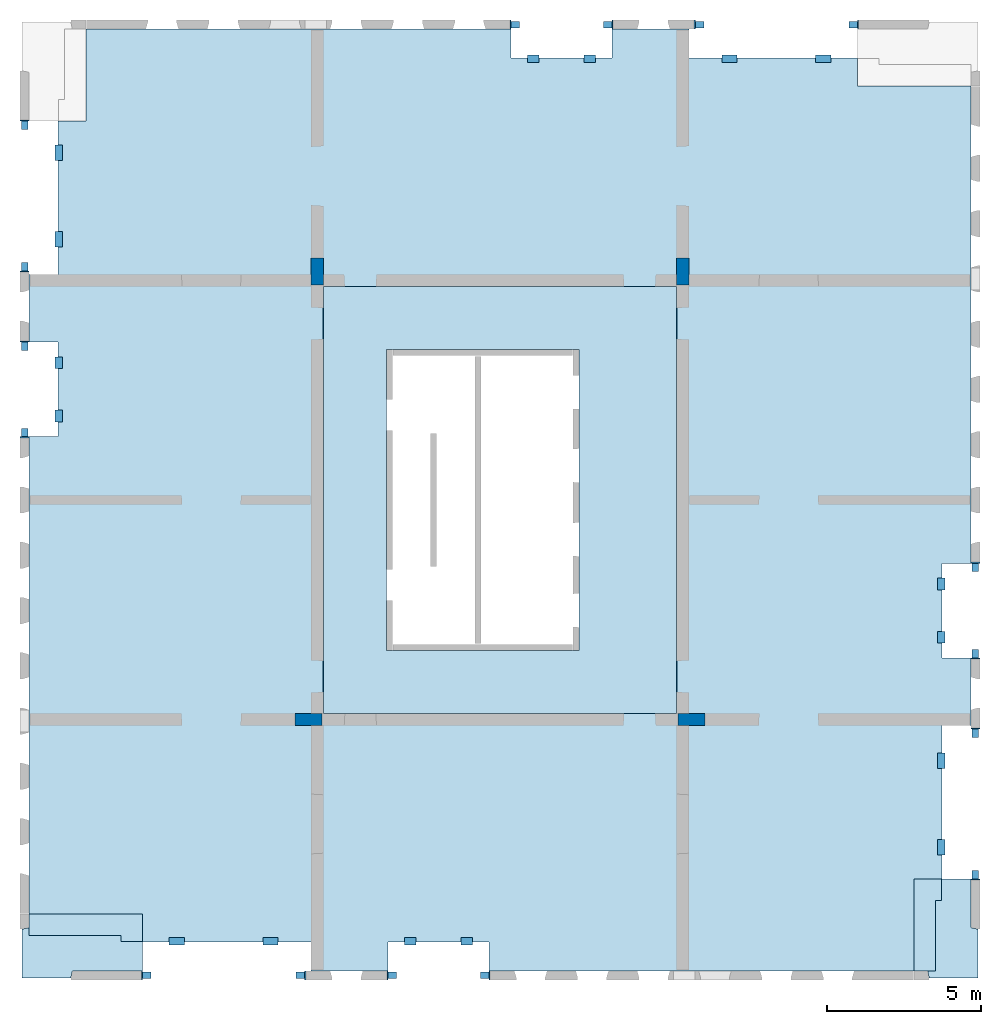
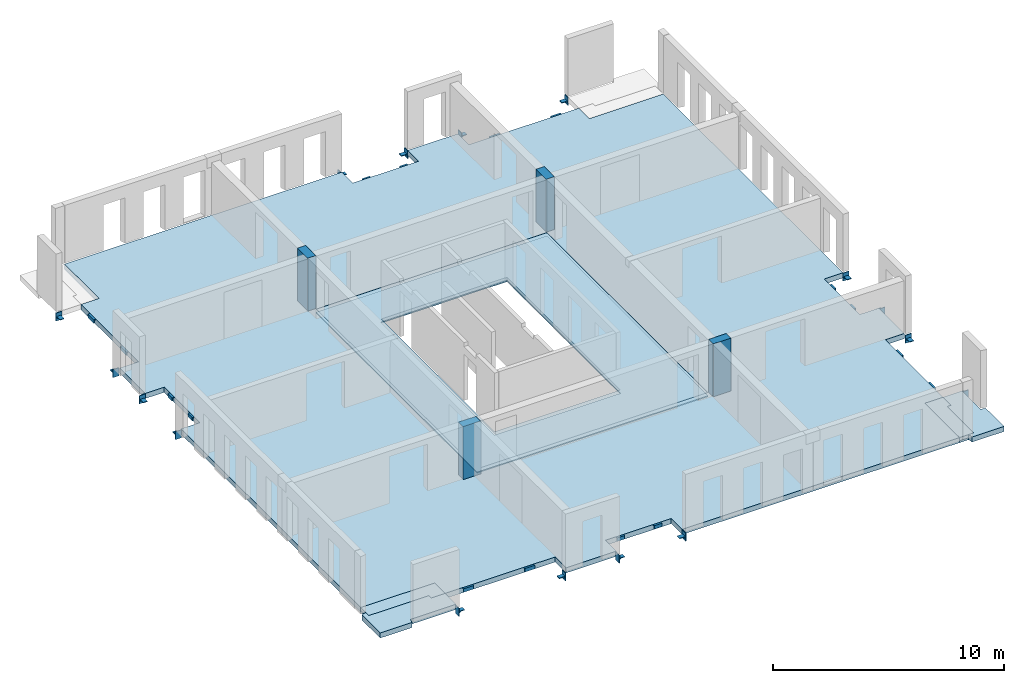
# One storey, part 1 of 4: 32 beams, 7 slabs, 4 columns, 3 openings.
"""IFC2X3 building model written with IfcOpenShell, lengths in millimetres."""

import ifcopenshell
import ifcopenshell.guid

model = None  # the IFC model being written
_history = None  # IfcOwnerHistory: only IFC2X3 demands one
_inside = {}  # id of a spatial element -> (the spatial element, [elements in it])
_under = {}  # id of a project, library or spatial element -> (it, [spatial elements below it])
_declared = {}  # id of a project -> (the project, [libraries it declares])
_typed = {}  # id of a type object -> (the type object, [elements of that type])
_made_of = {}  # id of a material, layer set ... -> (it, [elements and type objects made of it])


def new_model(schema):
    """Start an empty IFC model of exactly this schema.

    Asked for "IFC4X3", IfcOpenShell would pick the latest addendum, in which some entities
    have other attributes; the version numbers below select the first issue.
    IFC2X3 requires an IfcOwnerHistory on every rooted entity: one is made here for all.
    """
    global model, _history
    if schema == "IFC4X3":
        model = ifcopenshell.file(schema_version=(4, 3, 0, 0))
    else:
        model = ifcopenshell.file(schema=schema)
    _inside.clear()
    _under.clear()
    _declared.clear()
    _typed.clear()
    _made_of.clear()
    _history = None
    if model.schema == "IFC2X3":
        org = make("IfcOrganization", Name="unknown")
        user = make(
            "IfcPersonAndOrganization",
            ThePerson=make("IfcPerson", FamilyName="unknown"),
            TheOrganization=org,
        )
        app = make(
            "IfcApplication",
            ApplicationDeveloper=org,
            Version="unknown",
            ApplicationFullName="unknown",
            ApplicationIdentifier="unknown",
        )
        _history = make(
            "IfcOwnerHistory",
            OwningUser=user,
            OwningApplication=app,
            ChangeAction="ADDED",
            CreationDate=0,
        )
    return model


def make(cls, **values):
    """One entity of the class cls with the attributes given. An attribute that is None is left unset."""
    return model.create_entity(
        cls, **{name: value for name, value in values.items() if value is not None}
    )


def entity(cls, *values):
    """Any entity or typed value of the class cls, its attributes in the order of the schema. None: left unset."""
    e = model.create_entity(cls)
    for i, value in enumerate(values):
        if value is not None:
            e[i] = value
    return e


def rooted(cls, **values):
    """An entity with a GlobalId (a new one), such as an element, a storey or a relation."""
    return make(cls, GlobalId=ifcopenshell.guid.new(), OwnerHistory=_history, **values)


def si_unit(unit_type, name, prefix=None):
    """IfcSIUnit, for example si_unit("LENGTHUNIT", "METRE", prefix="MILLI")."""
    return make("IfcSIUnit", UnitType=unit_type, Prefix=prefix, Name=name)


def converted_unit(unit_type, name, factor, base, dimensions=None, offset=None):
    """IfcConversionBasedUnit, such as the inch: factor (a typed value) times the base unit."""
    return make(
        "IfcConversionBasedUnit"
        if offset is None
        else "IfcConversionBasedUnitWithOffset",
        ConversionOffset=offset,
        Dimensions=None
        if dimensions is None
        else entity("IfcDimensionalExponents", *dimensions),
        UnitType=unit_type,
        Name=name,
        ConversionFactor=make(
            "IfcMeasureWithUnit", ValueComponent=factor, UnitComponent=base
        ),
    )


def derived_unit(unit_type, elements):
    """IfcDerivedUnit: a product of units, each with its exponent."""
    return make(
        "IfcDerivedUnit",
        Elements=[
            make("IfcDerivedUnitElement", Unit=unit, Exponent=power)
            for unit, power in elements
        ],
        UnitType=unit_type,
    )


def assignment(units):
    """IfcUnitAssignment: the units of a project."""
    return None if units is None else make("IfcUnitAssignment", Units=units)


def point(xyz):
    """IfcCartesianPoint."""
    return None if xyz is None else make("IfcCartesianPoint", Coordinates=xyz)


def direction(xyz):
    """IfcDirection."""
    return None if xyz is None else make("IfcDirection", DirectionRatios=xyz)


def frame(location, z_axis=None, x_axis=None):
    """IfcAxis2Placement3D, a coordinate frame: its origin and axes. An axis left out is left unset."""
    return make(
        "IfcAxis2Placement3D",
        Location=point(location),
        Axis=direction(z_axis),
        RefDirection=direction(x_axis),
    )


def frame_2d(location, x_axis=None):
    """IfcAxis2Placement2D, a coordinate frame in the plane: its origin and x axis."""
    return make(
        "IfcAxis2Placement2D", Location=point(location), RefDirection=direction(x_axis)
    )


def origin():
    """The frame at (0, 0, 0) with its axes left unset."""
    return frame((0.0, 0.0, 0.0))


def origin_2d_with_axis():
    """The frame at (0, 0) in the plane with the x axis (1, 0) written out."""
    return frame_2d((0.0, 0.0), x_axis=(1.0, 0.0))


def place(relative_to, where):
    """IfcLocalPlacement: puts the frame where relative to a parent placement (None: the world)."""
    return make(
        "IfcLocalPlacement", PlacementRelTo=relative_to, RelativePlacement=where
    )


def context(
    kind, dimensions, precision=None, world=None, true_north=None, identifier=None
):
    """IfcGeometricRepresentationContext, for example the 3D "Model" context."""
    return make(
        "IfcGeometricRepresentationContext",
        ContextIdentifier=identifier,
        ContextType=kind,
        CoordinateSpaceDimension=dimensions,
        Precision=precision,
        WorldCoordinateSystem=world,
        TrueNorth=true_north,
    )


def subcontext(parent, identifier, kind, view, scale=None):
    """IfcGeometricRepresentationSubContext, for example "Body" below "Model"."""
    return make(
        "IfcGeometricRepresentationSubContext",
        ContextIdentifier=identifier,
        ContextType=kind,
        ParentContext=parent,
        TargetScale=scale,
        TargetView=view,
    )


def project(units=None, contexts=None):
    """IfcProject with its units and contexts."""
    return rooted(
        "IfcProject",
        Name="project",
        RepresentationContexts=contexts,
        UnitsInContext=assignment(units),
    )


def spatial(cls, under=None, at=None, **own):
    """A site, building, storey or space (cls), placed at a placement, below another one or the project."""
    s = rooted(cls, ObjectPlacement=at, **own)
    if under is not None:
        _under.setdefault(under.id(), (under, []))[1].append(s)
    return s


def polyline(points):
    """IfcPolyline through the points."""
    return make("IfcPolyline", Points=[point(p) for p in points])


def profile(cls, at=None, kind="AREA", **sizes):
    """A parametric profile (cls). Its sizes go by their IFC names, for example OverallWidth=200.0."""
    return make(cls, ProfileType=kind, Position=at, **sizes)


def rectangle(**sizes):
    """IfcRectangleProfileDef."""
    return profile("IfcRectangleProfileDef", **sizes)


def outline(outer, holes=None, kind="AREA"):
    """IfcArbitraryClosedProfileDef: a profile drawn as a closed curve; with holes, ...WithVoids."""
    if holes is None:
        return make("IfcArbitraryClosedProfileDef", ProfileType=kind, OuterCurve=outer)
    return make(
        "IfcArbitraryProfileDefWithVoids",
        ProfileType=kind,
        OuterCurve=outer,
        InnerCurves=holes,
    )


def extrude(swept, where, along, depth):
    """IfcExtrudedAreaSolid: the profile swept, set in the frame where, extruded along a direction by depth."""
    return make(
        "IfcExtrudedAreaSolid",
        SweptArea=swept,
        Position=where,
        ExtrudedDirection=direction(along),
        Depth=depth,
    )


def shape(context_of_items, identifier, shape_type, items):
    """IfcShapeRepresentation: the items that make up one representation, for example the "Body"."""
    return make(
        "IfcShapeRepresentation",
        ContextOfItems=context_of_items,
        RepresentationIdentifier=identifier,
        RepresentationType=shape_type,
        Items=items,
    )


def source(mapping_origin, context_of_items, identifier, shape_type, items):
    """IfcRepresentationMap: a shape defined once, which mapped items show again and again."""
    return make(
        "IfcRepresentationMap",
        MappingOrigin=mapping_origin,
        MappedRepresentation=shape(context_of_items, identifier, shape_type, items),
    )


def transform(
    local_origin,
    x_axis=None,
    y_axis=None,
    z_axis=None,
    scale=None,
    scale2=None,
    scale3=None,
    uniform=True,
):
    """IfcCartesianTransformationOperator3D, or its non-uniform kind. x_axis, y_axis, z_axis: its Axis1, 2, 3."""
    if uniform:
        return make(
            "IfcCartesianTransformationOperator3D",
            Axis1=direction(x_axis),
            Axis2=direction(y_axis),
            LocalOrigin=point(local_origin),
            Scale=scale,
            Axis3=direction(z_axis),
        )
    return make(
        "IfcCartesianTransformationOperator3DnonUniform",
        Axis1=direction(x_axis),
        Axis2=direction(y_axis),
        LocalOrigin=point(local_origin),
        Scale=scale,
        Axis3=direction(z_axis),
        Scale2=scale2,
        Scale3=scale3,
    )


def mapped(mapping_source, mapping_target):
    """IfcMappedItem: shows the shape of a source again, moved by a transform."""
    return make(
        "IfcMappedItem", MappingSource=mapping_source, MappingTarget=mapping_target
    )


def material(Name=None, Category=None):
    """IfcMaterial."""
    return make("IfcMaterial", Name=Name, Category=Category)


def layer(
    of_material, thickness, ventilated=None, Name=None, Category=None, Priority=None
):
    """IfcMaterialLayer: one layer of a wall or slab, of a material (None: an air gap)."""
    return make(
        "IfcMaterialLayer",
        Material=of_material,
        LayerThickness=thickness,
        IsVentilated=ventilated,
        Name=Name,
        Category=Category,
        Priority=Priority,
    )


def layer_set(layers, Name=None):
    """IfcMaterialLayerSet."""
    return make("IfcMaterialLayerSet", MaterialLayers=layers, LayerSetName=Name)


def layer_usage(for_layer_set, set_direction, sense, offset, extent=None):
    """IfcMaterialLayerSetUsage: how a layer set lies in its element."""
    return make(
        "IfcMaterialLayerSetUsage",
        ForLayerSet=for_layer_set,
        LayerSetDirection=set_direction,
        DirectionSense=sense,
        OffsetFromReferenceLine=offset,
        ReferenceExtent=extent,
    )


def made_of(thing, what):
    """Note that an element or type object is made of a material, layer set ...; save() writes the relation."""
    if what is not None:
        _made_of.setdefault(what.id(), (what, []))[1].append(thing)
    return thing


def type_object(cls, material=None, **own):
    """A type object (cls), such as IfcWallType, which elements share."""
    return made_of(rooted(cls, **own), material)


def type_shapes(of_type, sources):
    """Give a type object the sources (RepresentationMaps) that its elements show as mapped items."""
    of_type.RepresentationMaps = sources


def element(
    cls,
    number,
    at=None,
    inside=None,
    cuts=None,
    type_object=None,
    material=None,
    context=None,
    identifier="Body",
    shape_type=None,
    held_by="IfcProductDefinitionShape",
    body=None,
    shapes=None,
    **own,
):
    """One element of the class cls, such as IfcWall. Its Tag is "e" and its number.

    at: its placement. inside: the storey or other place that contains it. cuts: it is an
    opening in that element (IfcRelVoidsElement). A single representation is given by context,
    identifier, shape_type and body (its items); several are given by shapes. held_by: the class
    of the entity that holds the representations. save() writes the other relations.
    """
    e = rooted(cls, Tag="e%d" % number, ObjectPlacement=at, **own)
    if body is not None:
        shapes = [shape(context, identifier, shape_type, body)]
    if shapes is not None:
        e.Representation = make(held_by, Representations=shapes)
    if inside is not None:
        _inside.setdefault(inside.id(), (inside, []))[1].append(e)
    if cuts is not None:
        rooted(
            "IfcRelVoidsElement", RelatingBuildingElement=cuts, RelatedOpeningElement=e
        )
    if type_object is not None:
        _typed.setdefault(type_object.id(), (type_object, []))[1].append(e)
    return made_of(e, material)


def aggregate(whole, parts):
    """IfcRelAggregates: a whole, such as a stair, and the parts it consists of."""
    return rooted("IfcRelAggregates", RelatingObject=whole, RelatedObjects=parts)


def save(model, path):
    """Write the relations noted so far, then the file.

    IfcRelAggregates (storeys below a building ...), IfcRelContainedInSpatialStructure (elements
    in a storey), IfcRelDefinesByType, IfcRelAssociatesMaterial and IfcRelDeclares: one each for
    every whole, place, type object, material and project.
    """
    for whole, parts in _under.values():
        aggregate(whole, parts)
    for where, things in _inside.values():
        rooted(
            "IfcRelContainedInSpatialStructure",
            RelatedElements=things,
            RelatingStructure=where,
        )
    for kind, things in _typed.values():
        rooted("IfcRelDefinesByType", RelatedObjects=things, RelatingType=kind)
    for what, things in _made_of.values():
        rooted("IfcRelAssociatesMaterial", RelatedObjects=things, RelatingMaterial=what)
    for by, libraries in _declared.values():
        rooted("IfcRelDeclares", RelatingContext=by, RelatedDefinitions=libraries)
    model.write(path)


model = new_model("IFC2X3")

# Units and contexts
model_context = context("Model", 3, precision=0.01, world=origin(), true_north=direction((6.12303176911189e-17, 1.0)))
body_context = subcontext(model_context, "Body", "Model", "MODEL_VIEW")
ifc_project = project(units=[si_unit("LENGTHUNIT", "METRE", prefix="MILLI"), si_unit("AREAUNIT", "SQUARE_METRE"), si_unit("VOLUMEUNIT", "CUBIC_METRE"), converted_unit("PLANEANGLEUNIT", "DEGREE", entity("IfcRatioMeasure", 0.0174532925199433), si_unit("PLANEANGLEUNIT", "RADIAN"), dimensions=[0, 0, 0, 0, 0, 0, 0]), si_unit("MASSUNIT", "GRAM", prefix="KILO"), derived_unit("MASSDENSITYUNIT", [(si_unit("MASSUNIT", "GRAM", prefix="KILO"), 1), (si_unit("LENGTHUNIT", "METRE"), -3)]), si_unit("TIMEUNIT", "SECOND"), si_unit("FREQUENCYUNIT", "HERTZ"), si_unit("THERMODYNAMICTEMPERATUREUNIT", "DEGREE_CELSIUS"), derived_unit("THERMALTRANSMITTANCEUNIT", [(si_unit("MASSUNIT", "GRAM", prefix="KILO"), 1), (si_unit("THERMODYNAMICTEMPERATUREUNIT", "KELVIN"), -1), (si_unit("TIMEUNIT", "SECOND"), -3)]), derived_unit("VOLUMETRICFLOWRATEUNIT", [(si_unit("LENGTHUNIT", "METRE"), 3), (si_unit("TIMEUNIT", "SECOND"), -1)]), si_unit("ELECTRICCURRENTUNIT", "AMPERE"), si_unit("ELECTRICVOLTAGEUNIT", "VOLT"), si_unit("POWERUNIT", "WATT"), si_unit("FORCEUNIT", "NEWTON", prefix="KILO"), si_unit("ILLUMINANCEUNIT", "LUX"), si_unit("LUMINOUSFLUXUNIT", "LUMEN"), si_unit("LUMINOUSINTENSITYUNIT", "CANDELA"), derived_unit("USERDEFINED", [(si_unit("MASSUNIT", "GRAM", prefix="KILO"), -1), (si_unit("LENGTHUNIT", "METRE"), -2), (si_unit("TIMEUNIT", "SECOND"), 3), (si_unit("LUMINOUSFLUXUNIT", "LUMEN"), 1)]), derived_unit("LINEARVELOCITYUNIT", [(si_unit("LENGTHUNIT", "METRE"), 1), (si_unit("TIMEUNIT", "SECOND"), -1)]), si_unit("PRESSUREUNIT", "PASCAL"), derived_unit("USERDEFINED", [(si_unit("LENGTHUNIT", "METRE"), -2), (si_unit("MASSUNIT", "GRAM", prefix="KILO"), 1), (si_unit("TIMEUNIT", "SECOND"), -2)])], contexts=[model_context])

# Site, building, storey
site_placement = place(None, origin())
site = spatial("IfcSite", under=ifc_project, at=site_placement, Name="Default", CompositionType="ELEMENT")
building_placement = place(site_placement, origin())
building = spatial("IfcBuilding", under=site, at=building_placement, Name="niet gebruiken", CompositionType="ELEMENT")
storey_placement = place(building_placement, frame((0.0, 0.0, 82260.0)))
storey = spatial("IfcBuildingStorey", under=building, at=storey_placement, Name="26 zesentwintigste verdieping", CompositionType="ELEMENT", Elevation=82260.0000000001)

# Columns
ifc_material_1 = material(Name="NLRS_f2_beton ihwg")
column_type_1 = type_object("IfcColumnType", Name="400x880", PredefinedType="COLUMN", material=ifc_material_1)
shared_shape_1 = source(origin(), body_context, "Body", "SweptSolid", [
    extrude(rectangle(XDim=879.999999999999, YDim=399.999999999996, at=frame_2d((0.0, 1.73230318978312e-11), x_axis=(1.0, 0.0))), frame((135800.0, 24940.0, 82170.0), z_axis=(0.0, 0.0, 1.0), x_axis=(0.0, -1.0, 0.0)), (0.0, 0.0, 1.0), 2789.99999999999),
])
type_shapes(column_type_1, [shared_shape_1])
column_1_placement = place(storey_placement, frame((0.0, 0.0, -82260.0)))
element("IfcColumn", 1, at=column_1_placement, inside=storey, type_object=column_type_1, material=ifc_material_1, Name="NLRS_28.11_SCO_TLB_beton kolom ihwg_gen:400x880", ObjectType="400x880", context=body_context, shape_type="MappedRepresentation", body=[
    mapped(shared_shape_1, transform((0.0, 0.0, 0.0), scale=1.0)),
])
column_type_2 = type_object("IfcColumnType", Name="400x880", PredefinedType="COLUMN", material=ifc_material_1)
shared_shape_2 = source(origin(), body_context, "Body", "SweptSolid", [
    extrude(rectangle(XDim=879.999999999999, YDim=399.999999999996, at=origin_2d_with_axis()), frame((147700.0, 24940.0, 82170.0), z_axis=(0.0, 0.0, 1.0), x_axis=(0.0, -1.0, 0.0)), (0.0, 0.0, 1.0), 2789.99999999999),
])
type_shapes(column_type_2, [shared_shape_2])
column_2_placement = place(storey_placement, frame((0.0, 0.0, -82260.0)))
element("IfcColumn", 2, at=column_2_placement, inside=storey, type_object=column_type_2, material=ifc_material_1, Name="NLRS_28.11_SCO_TLB_beton kolom ihwg_gen:400x880", ObjectType="400x880", context=body_context, shape_type="MappedRepresentation", body=[
    mapped(shared_shape_2, transform((0.0, 0.0, 0.0), scale=1.0)),
])
column_type_3 = type_object("IfcColumnType", Name="400x880", PredefinedType="COLUMN", material=ifc_material_1)
shared_shape_3 = source(origin(), body_context, "Body", "SweptSolid", [
    extrude(rectangle(XDim=400.000000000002, YDim=880.000000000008, at=origin_2d_with_axis()), frame((135510.003540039, 10350.0, 82170.0), z_axis=(0.0, 0.0, 1.0), x_axis=(0.0, -1.0, 0.0)), (0.0, 0.0, 1.0), 2789.99999999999),
])
type_shapes(column_type_3, [shared_shape_3])
column_3_placement = place(storey_placement, frame((0.0, 0.0, -82260.0)))
element("IfcColumn", 3, at=column_3_placement, inside=storey, type_object=column_type_3, material=ifc_material_1, Name="NLRS_28.11_SCO_TLB_beton kolom ihwg_gen:400x880", ObjectType="400x880", context=body_context, shape_type="MappedRepresentation", body=[
    mapped(shared_shape_3, transform((0.0, 0.0, 0.0), scale=1.0)),
])
column_type_4 = type_object("IfcColumnType", Name="400x880", PredefinedType="COLUMN", material=ifc_material_1)
shared_shape_4 = source(origin(), body_context, "Body", "SweptSolid", [
    extrude(rectangle(XDim=400.000000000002, YDim=880.000000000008, at=origin_2d_with_axis()), frame((147990.0, 10350.0, 82170.0), z_axis=(0.0, 0.0, 1.0), x_axis=(0.0, -1.0, 0.0)), (0.0, 0.0, 1.0), 2789.99999999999),
])
type_shapes(column_type_4, [shared_shape_4])
column_4_placement = place(storey_placement, frame((0.0, 0.0, -82260.0)))
element("IfcColumn", 4, at=column_4_placement, inside=storey, type_object=column_type_4, material=ifc_material_1, Name="NLRS_28.11_SCO_TLB_beton kolom ihwg_gen:400x880", ObjectType="400x880", context=body_context, shape_type="MappedRepresentation", body=[
    mapped(shared_shape_4, transform((0.0, 0.0, 0.0), scale=1.0)),
])

# Beams
ifc_material_2 = material(Name="NLRS_h2_staal")
beam_type_1 = type_object("IfcBeamType", Name="NLRS_28.11_SF_WPB_stalen schoen 4_gen", PredefinedType="BEAM", material=ifc_material_2)
shared_shape_5 = source(origin(), body_context, "Body", "SweptSolid", [
    extrude(outline(polyline([(-69.4999999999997, -23.0), (8.49999999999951, -23.0), (30.5, -1.0), (30.5000000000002, 47.0), (-69.4999999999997, -23.0)])), frame((-105.0, -109.499999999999, -58.0), z_axis=(1.0, 0.0, 0.0), x_axis=(0.0, -1.0, 0.0)), (0.0, 0.0, 1.0), 35.0),
    extrude(outline(polyline([(-69.4999999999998, -23.0), (8.49999999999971, -23.0), (30.5, -1.0), (30.5000000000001, 47.0), (-69.4999999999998, -23.0)])), frame((70.0, -109.499999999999, -58.0), z_axis=(1.0, 0.0, 0.0), x_axis=(0.0, -1.0, 0.0)), (0.0, 0.0, 1.0), 35.0),
    extrude(rectangle(XDim=300.0, YDim=34.9999999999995, at=origin_2d_with_axis()), frame((0.0, -157.5, -230.0), z_axis=(0.0, 0.0, 1.0), x_axis=(-1.0, 0.0, 0.0)), (0.0, 0.0, 1.0), 420.0),
    extrude(rectangle(XDim=210.000000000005, YDim=274.999999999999, at=origin_2d_with_axis()), frame((0.0, -2.4999999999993, -35.0), z_axis=(0.0, 0.0, 1.0), x_axis=(-1.0, 0.0, 0.0)), (0.0, 0.0, 1.0), 35.0),
])
type_shapes(beam_type_1, [shared_shape_5])
beam_1_placement = place(storey_placement, frame((157230.0, 12500.0, -310.0)))
element("IfcBeam", 5, at=beam_1_placement, inside=storey, type_object=beam_type_1, material=ifc_material_2, Name="NLRS_28.11_SF_WPB_stalen schoen 4_gen:NLRS_28.11_SF_WPB_stalen schoen 4_gen", ObjectType="NLRS_28.11_SF_WPB_stalen schoen 4_gen", context=body_context, shape_type="MappedRepresentation", body=[
    mapped(shared_shape_5, transform((0.0, 0.0, 0.0), scale=1.0)),
])
for number, where, z_axis, x_axis, name in (
    (6, (157230.0, 15300.0, -310.0), (0.0, 0.0, 1.0), (-1.0, 0.0, 0.0), "NLRS_28.11_SF_WPB_stalen schoen 4_gen:NLRS_28.11_SF_WPB_stalen schoen 4_gen"),
    (7, (126270.0, 22500.0, -310.0), (0.0, 0.0, 1.0), (-1.0, 0.0, 0.0), "NLRS_28.11_SF_WPB_stalen schoen 4_gen:NLRS_28.11_SF_WPB_stalen schoen 4_gen"),
):
    element("IfcBeam", number, at=place(storey_placement, frame(where, z_axis=z_axis, x_axis=x_axis)), inside=storey, type_object=beam_type_1, material=ifc_material_2, Name=name, ObjectType="NLRS_28.11_SF_WPB_stalen schoen 4_gen", context=body_context, shape_type="MappedRepresentation", body=[
        mapped(shared_shape_5, transform((0.0, 0.0, 0.0), scale=1.0)),
    ])
beam_2_placement = place(storey_placement, frame((126270.0, 19700.0, -310.0)))
element("IfcBeam", 8, at=beam_2_placement, inside=storey, type_object=beam_type_1, material=ifc_material_2, Name="NLRS_28.11_SF_WPB_stalen schoen 4_gen:NLRS_28.11_SF_WPB_stalen schoen 4_gen", ObjectType="NLRS_28.11_SF_WPB_stalen schoen 4_gen", context=body_context, shape_type="MappedRepresentation", body=[
    mapped(shared_shape_5, transform((0.0, 0.0, 0.0), scale=1.0)),
])
for number, where, z_axis, x_axis, name in (
    (9, (138250.0, 2020.0, -310.0), (0.0, 0.0, 1.0), (0.0, -1.0, 0.0), "NLRS_28.11_SF_WPB_stalen schoen 4_gen:NLRS_28.11_SF_WPB_stalen schoen 4_gen"),
    (10, (141250.0, 2020.0, -310.0), (0.0, 0.0, 1.0), (0.0, 1.0, 0.0), "NLRS_28.11_SF_WPB_stalen schoen 4_gen:NLRS_28.11_SF_WPB_stalen schoen 4_gen"),
    (11, (145250.0, 32980.0, -310.0), (0.0, 0.0, 1.0), (0.0, 1.0, 0.0), "NLRS_28.11_SF_WPB_stalen schoen 4_gen:NLRS_28.11_SF_WPB_stalen schoen 4_gen"),
    (12, (142250.0, 32980.0, -310.0), (0.0, 0.0, 1.0), (0.0, -1.0, 0.0), "NLRS_28.11_SF_WPB_stalen schoen 4_gen:NLRS_28.11_SF_WPB_stalen schoen 4_gen"),
):
    element("IfcBeam", number, at=place(storey_placement, frame(where, z_axis=z_axis, x_axis=x_axis)), inside=storey, type_object=beam_type_1, material=ifc_material_2, Name=name, ObjectType="NLRS_28.11_SF_WPB_stalen schoen 4_gen", context=body_context, shape_type="MappedRepresentation", body=[
        mapped(shared_shape_5, transform((0.0, 0.0, 0.0), scale=1.0)),
    ])
beam_type_2 = type_object("IfcBeamType", Name="NLRS_28.11_SF_WPB_stalen schoen 3_gen", PredefinedType="BEAM", material=ifc_material_2)
shared_shape_6 = source(origin(), body_context, "Body", "SweptSolid", [
    extrude(outline(polyline([(-69.4999999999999, -23.0), (8.49999999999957, -23.0), (30.5000000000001, -1.0), (30.5000000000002, 47.0), (-69.4999999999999, -23.0)])), frame((-105.0, -109.499999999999, -63.0), z_axis=(1.0, 0.0, 0.0), x_axis=(0.0, -1.0, 0.0)), (0.0, 0.0, 1.0), 40.0),
    extrude(outline(polyline([(-69.4999999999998, -23.0), (8.49999999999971, -23.0), (30.5, -1.0), (30.5000000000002, 47.0), (-69.4999999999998, -23.0)])), frame((65.0, -109.499999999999, -63.0), z_axis=(1.0, 0.0, 0.0), x_axis=(0.0, -1.0, 0.0)), (0.0, 0.0, 1.0), 40.0),
    extrude(rectangle(XDim=300.0, YDim=39.9999999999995, at=origin_2d_with_axis()), frame((0.0, -160.0, -230.0), z_axis=(0.0, 0.0, 1.0), x_axis=(-1.0, 0.0, 0.0)), (0.0, 0.0, 1.0), 420.0),
    extrude(rectangle(XDim=210.000000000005, YDim=274.999999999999, at=origin_2d_with_axis()), frame((0.0, -2.49999999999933, -40.0), z_axis=(0.0, 0.0, 1.0), x_axis=(-1.0, 0.0, 0.0)), (0.0, 0.0, 1.0), 39.9999999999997),
])
type_shapes(beam_type_2, [shared_shape_6])
beam_3_placement = place(storey_placement, frame((157230.0, 9900.0, -310.0), z_axis=(0.0, 0.0, 1.0), x_axis=(-1.0, 0.0, 0.0)))
element("IfcBeam", 13, at=beam_3_placement, inside=storey, type_object=beam_type_2, material=ifc_material_2, Name="NLRS_28.11_SF_WPB_stalen schoen 3_gen:NLRS_28.11_SF_WPB_stalen schoen 3_gen", ObjectType="NLRS_28.11_SF_WPB_stalen schoen 3_gen", context=body_context, shape_type="MappedRepresentation", body=[
    mapped(shared_shape_6, transform((0.0, 0.0, 0.0), scale=1.0)),
])
for number, where, name in (
    (14, (157230.0, 5300.0, -310.0), "NLRS_28.11_SF_WPB_stalen schoen 3_gen:NLRS_28.11_SF_WPB_stalen schoen 3_gen"),
    (15, (126270.0, 25100.0, -310.0), "NLRS_28.11_SF_WPB_stalen schoen 3_gen:NLRS_28.11_SF_WPB_stalen schoen 3_gen"),
):
    element("IfcBeam", number, at=place(storey_placement, frame(where)), inside=storey, type_object=beam_type_2, material=ifc_material_2, Name=name, ObjectType="NLRS_28.11_SF_WPB_stalen schoen 3_gen", context=body_context, shape_type="MappedRepresentation", body=[
        mapped(shared_shape_6, transform((0.0, 0.0, 0.0), scale=1.0)),
    ])
for number, where, z_axis, x_axis, name in (
    (16, (126270.0, 29700.0, -310.0), (0.0, 0.0, 1.0), (-1.0, 0.0, 0.0), "NLRS_28.11_SF_WPB_stalen schoen 3_gen:NLRS_28.11_SF_WPB_stalen schoen 3_gen"),
    (17, (135250.0, 2020.0, -310.0), (0.0, 0.0, 1.0), (0.0, 1.0, 0.0), "NLRS_28.11_SF_WPB_stalen schoen 3_gen:NLRS_28.11_SF_WPB_stalen schoen 3_gen"),
    (18, (130250.0, 2020.0, -310.0), (0.0, 0.0, 1.0), (0.0, -1.0, 0.0), "NLRS_28.11_SF_WPB_stalen schoen 3_gen:NLRS_28.11_SF_WPB_stalen schoen 3_gen"),
    (19, (148250.0, 32980.0, -310.0), (0.0, 0.0, 1.0), (0.0, -1.0, 0.0), "NLRS_28.11_SF_WPB_stalen schoen 3_gen:NLRS_28.11_SF_WPB_stalen schoen 3_gen"),
    (20, (153250.0, 32980.0, -310.0), (0.0, 0.0, 1.0), (0.0, 1.0, 0.0), "NLRS_28.11_SF_WPB_stalen schoen 3_gen:NLRS_28.11_SF_WPB_stalen schoen 3_gen"),
):
    element("IfcBeam", number, at=place(storey_placement, frame(where, z_axis=z_axis, x_axis=x_axis)), inside=storey, type_object=beam_type_2, material=ifc_material_2, Name=name, ObjectType="NLRS_28.11_SF_WPB_stalen schoen 3_gen", context=body_context, shape_type="MappedRepresentation", body=[
        mapped(shared_shape_6, transform((0.0, 0.0, 0.0), scale=1.0)),
    ])
beam_type_3 = type_object("IfcBeamType", Name="NLRS_28.11_SF_WPB_stalen handje 7 lang 375_gen:NLRS_28.11_SF_WPB_stalen handje 7_gen", PredefinedType="BEAM")
beam_4_placement = place(storey_placement, frame((156235.125015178, 9255.24886461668, -93.0), z_axis=(0.0, 0.0, 1.0), x_axis=(0.0, -1.0, 0.0)))
element("IfcBeam", 21, at=beam_4_placement, inside=storey, type_object=beam_type_3, material=ifc_material_2, Name="NLRS_28.11_SF_WPB_stalen handje 7 lang 375_gen:NLRS_28.11_SF_WPB_stalen handje 7_gen", ObjectType="NLRS_28.11_SF_WPB_stalen handje 7 lang 375_gen:NLRS_28.11_SF_WPB_stalen handje 7_gen", context=body_context, shape_type="SweptSolid", body=[
    extrude(outline(polyline([(-70.6666666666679, -153.33333333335), (-40.6666666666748, -153.33333333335), (-40.6666666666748, 61.6666666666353), (111.333333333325, 61.6666666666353), (111.333333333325, 91.6666666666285), (-70.6666666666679, 91.6666666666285), (-70.6666666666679, -153.33333333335)])), frame((0.0, -91.6666666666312, -70.6666666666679), z_axis=(1.0, 0.0, 0.0), x_axis=(0.0, 0.0, -1.0)), (0.0, 0.0, 1.0), 500.000000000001),
])
beam_5_placement = place(storey_placement, frame((156235.125015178, 6445.24582437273, -93.0), z_axis=(0.0, 0.0, 1.0), x_axis=(0.0, -1.0, 0.0)))
element("IfcBeam", 22, at=beam_5_placement, inside=storey, type_object=beam_type_3, material=ifc_material_2, Name="NLRS_28.11_SF_WPB_stalen handje 7 lang 375_gen:NLRS_28.11_SF_WPB_stalen handje 7_gen", ObjectType="NLRS_28.11_SF_WPB_stalen handje 7 lang 375_gen:NLRS_28.11_SF_WPB_stalen handje 7_gen", context=body_context, shape_type="SweptSolid", body=[
    extrude(outline(polyline([(-70.6666666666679, -153.33333333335), (-40.6666666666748, -153.33333333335), (-40.6666666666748, 61.6666666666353), (111.333333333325, 61.6666666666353), (111.333333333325, 91.6666666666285), (-70.6666666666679, 91.6666666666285), (-70.6666666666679, -153.33333333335)])), frame((0.0, -91.6666666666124, -70.6666666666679), z_axis=(1.0, 0.0, 0.0), x_axis=(0.0, 0.0, -1.0)), (0.0, 0.0, 1.0), 500.000000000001),
])
beam_6_placement = place(storey_placement, frame((127264.874984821, 25744.7511353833, -93.0), z_axis=(0.0, 0.0, 1.0), x_axis=(0.0, 1.0, 0.0)))
element("IfcBeam", 23, at=beam_6_placement, inside=storey, type_object=beam_type_3, material=ifc_material_2, Name="NLRS_28.11_SF_WPB_stalen handje 7 lang 375_gen:NLRS_28.11_SF_WPB_stalen handje 7_gen", ObjectType="NLRS_28.11_SF_WPB_stalen handje 7 lang 375_gen:NLRS_28.11_SF_WPB_stalen handje 7_gen", context=body_context, shape_type="SweptSolid", body=[
    extrude(outline(polyline([(-70.6666666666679, -153.333333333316), (-40.6666666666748, -153.333333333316), (-40.6666666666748, 61.6666666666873), (111.333333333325, 61.66666666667), (111.333333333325, 91.6666666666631), (-70.6666666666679, 91.6666666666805), (-70.6666666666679, -153.333333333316)])), frame((0.0, -91.6666666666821, -70.6666666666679), z_axis=(1.0, 0.0, 0.0), x_axis=(0.0, 0.0, -1.0)), (0.0, 0.0, 1.0), 500.000000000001),
])
beam_7_placement = place(storey_placement, frame((127264.874984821, 28554.7541756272, -93.0), z_axis=(0.0, 0.0, 1.0), x_axis=(0.0, 1.0, 0.0)))
element("IfcBeam", 24, at=beam_7_placement, inside=storey, type_object=beam_type_3, material=ifc_material_2, Name="NLRS_28.11_SF_WPB_stalen handje 7 lang 375_gen:NLRS_28.11_SF_WPB_stalen handje 7_gen", ObjectType="NLRS_28.11_SF_WPB_stalen handje 7 lang 375_gen:NLRS_28.11_SF_WPB_stalen handje 7_gen", context=body_context, shape_type="SweptSolid", body=[
    extrude(outline(polyline([(-70.6666666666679, -153.333333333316), (-40.6666666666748, -153.333333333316), (-40.6666666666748, 61.6666666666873), (111.333333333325, 61.66666666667), (111.333333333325, 91.6666666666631), (-70.6666666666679, 91.6666666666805), (-70.6666666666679, -153.333333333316)])), frame((0.0, -91.66666666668, -70.6666666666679), z_axis=(1.0, 0.0, 0.0), x_axis=(0.0, 0.0, -1.0)), (0.0, 0.0, 1.0), 500.000000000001),
])
for number, where, z_axis, x_axis, name in (
    (25, (140862.631597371, 3015.23611279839, -93.0), (0.0, 0.0, 1.0), (-1.0, 0.0, 0.0), "NLRS_28.11_SF_WPB_stalen handje 7 lang 375_gen:NLRS_28.11_SF_WPB_stalen handje 7_gen"),
    (26, (139012.628555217, 3015.23611279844, -93.0), (0.0, 0.0, 1.0), (-1.0, 0.0, 0.0), "NLRS_28.11_SF_WPB_stalen handje 7 lang 375_gen:NLRS_28.11_SF_WPB_stalen handje 7_gen"),
):
    element("IfcBeam", number, at=place(storey_placement, frame(where, z_axis=z_axis, x_axis=x_axis)), inside=storey, type_object=beam_type_3, material=ifc_material_2, Name=name, ObjectType="NLRS_28.11_SF_WPB_stalen handje 7 lang 375_gen:NLRS_28.11_SF_WPB_stalen handje 7_gen", context=body_context, shape_type="SweptSolid", body=[
        extrude(outline(polyline([(-70.6666666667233, -153.333333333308), (-40.6666666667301, -153.333333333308), (-40.6666666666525, 61.6666666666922), (111.333333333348, 61.6666666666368), (111.333333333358, 91.6666666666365), (-70.6666666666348, 91.6666666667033), (-70.6666666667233, -153.333333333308)])), frame((0.0, -91.6666666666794, -70.6666666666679), z_axis=(1.0, 0.0, 0.0), x_axis=(0.0, 0.0, -1.0)), (0.0, 0.0, 1.0), 375.000000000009),
    ])
for number, where, z_axis, x_axis, name in (
    (27, (134525.131597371, 3015.23611279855, -93.0), (0.0, 0.0, 1.0), (-1.0, 0.0, 0.0), "NLRS_28.11_SF_WPB_stalen handje 7 lang 375_gen:NLRS_28.11_SF_WPB_stalen handje 7_gen"),
    (28, (131475.128555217, 3015.23611279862, -93.0), (0.0, 0.0, 1.0), (-1.0, 0.0, 0.0), "NLRS_28.11_SF_WPB_stalen handje 7 lang 375_gen:NLRS_28.11_SF_WPB_stalen handje 7_gen"),
):
    element("IfcBeam", number, at=place(storey_placement, frame(where, z_axis=z_axis, x_axis=x_axis)), inside=storey, type_object=beam_type_3, material=ifc_material_2, Name=name, ObjectType="NLRS_28.11_SF_WPB_stalen handje 7 lang 375_gen:NLRS_28.11_SF_WPB_stalen handje 7_gen", context=body_context, shape_type="SweptSolid", body=[
        extrude(outline(polyline([(-70.6666666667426, -153.333333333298), (-40.6666666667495, -153.333333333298), (-40.6666666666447, 61.6666666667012), (111.333333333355, 61.6666666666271), (111.33333333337, 91.6666666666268), (-70.6666666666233, 91.666666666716), (-70.6666666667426, -153.333333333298)])), frame((0.0, -91.6666666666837, -70.6666666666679), z_axis=(1.0, 0.0, 0.0), x_axis=(0.0, 0.0, -1.0)), (0.0, 0.0, 1.0), 500.000000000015),
    ])
for number, where, name in (
    (29, (142637.368402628, 31984.7638872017, -93.0), "NLRS_28.11_SF_WPB_stalen handje 7 lang 375_gen:NLRS_28.11_SF_WPB_stalen handje 7_gen"),
    (30, (144487.371444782, 31984.7638872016, -93.0), "NLRS_28.11_SF_WPB_stalen handje 7 lang 375_gen:NLRS_28.11_SF_WPB_stalen handje 7_gen"),
):
    element("IfcBeam", number, at=place(storey_placement, frame(where)), inside=storey, type_object=beam_type_3, material=ifc_material_2, Name=name, ObjectType="NLRS_28.11_SF_WPB_stalen handje 7 lang 375_gen:NLRS_28.11_SF_WPB_stalen handje 7_gen", context=body_context, shape_type="SweptSolid", body=[
        extrude(outline(polyline([(-70.6666666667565, -153.333333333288), (-40.6666666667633, -153.333333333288), (-40.6666666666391, 61.6666666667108), (111.333333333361, 61.666666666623), (111.333333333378, 91.6666666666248), (-70.666666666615, 91.6666666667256), (-70.6666666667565, -153.333333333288)])), frame((0.0, -91.6666666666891, -70.6666666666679), z_axis=(1.0, 0.0, 0.0), x_axis=(0.0, 0.0, -1.0)), (0.0, 0.0, 1.0), 375.000000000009),
    ])
for number, where, name in (
    (31, (148974.868402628, 31984.7638872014, -93.0), "NLRS_28.11_SF_WPB_stalen handje 7 lang 375_gen:NLRS_28.11_SF_WPB_stalen handje 7_gen"),
    (32, (152024.871444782, 31984.7638872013, -93.0), "NLRS_28.11_SF_WPB_stalen handje 7 lang 375_gen:NLRS_28.11_SF_WPB_stalen handje 7_gen"),
):
    element("IfcBeam", number, at=place(storey_placement, frame(where)), inside=storey, type_object=beam_type_3, material=ifc_material_2, Name=name, ObjectType="NLRS_28.11_SF_WPB_stalen handje 7 lang 375_gen:NLRS_28.11_SF_WPB_stalen handje 7_gen", context=body_context, shape_type="SweptSolid", body=[
        extrude(outline(polyline([(-70.6666666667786, -153.333333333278), (-40.6666666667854, -153.333333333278), (-40.6666666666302, 61.6666666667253), (111.33333333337, 61.6666666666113), (111.333333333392, 91.6666666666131), (-70.6666666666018, 91.6666666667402), (-70.6666666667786, -153.333333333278)])), frame((0.0, -91.6666666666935, -70.6666666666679), z_axis=(1.0, 0.0, 0.0), x_axis=(0.0, 0.0, -1.0)), (0.0, 0.0, 1.0), 500.000000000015),
    ])
beam_8_placement = place(storey_placement, frame((156235.0, 14952.5097115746, -93.0), z_axis=(0.0, 0.0, 1.0), x_axis=(0.0, -1.0, 0.0)))
element("IfcBeam", 33, at=beam_8_placement, inside=storey, type_object=beam_type_3, material=ifc_material_2, Name="NLRS_28.11_SF_WPB_stalen handje 7 lang 375_gen:NLRS_28.11_SF_WPB_stalen handje 7_gen", ObjectType="NLRS_28.11_SF_WPB_stalen handje 7 lang 375_gen:NLRS_28.11_SF_WPB_stalen handje 7_gen", context=body_context, shape_type="SweptSolid", body=[
    extrude(outline(polyline([(-70.6666666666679, -153.333333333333), (-40.6666666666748, -153.333333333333), (-40.6666666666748, 61.66666666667), (111.333333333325, 61.66666666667), (111.333333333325, 91.6666666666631), (-70.6666666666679, 91.6666666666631), (-70.6666666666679, -153.333333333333)])), frame((0.0, -91.6666666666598, -70.6666666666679), z_axis=(1.0, 0.0, 0.0), x_axis=(0.0, 0.0, -1.0)), (0.0, 0.0, 1.0), 375.000000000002),
])
beam_9_placement = place(storey_placement, frame((156235.0, 13222.5097115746, -93.0), z_axis=(0.0, 0.0, 1.0), x_axis=(0.0, -1.0, 0.0)))
element("IfcBeam", 34, at=beam_9_placement, inside=storey, type_object=beam_type_3, material=ifc_material_2, Name="NLRS_28.11_SF_WPB_stalen handje 7 lang 375_gen:NLRS_28.11_SF_WPB_stalen handje 7_gen", ObjectType="NLRS_28.11_SF_WPB_stalen handje 7 lang 375_gen:NLRS_28.11_SF_WPB_stalen handje 7_gen", context=body_context, shape_type="SweptSolid", body=[
    extrude(outline(polyline([(-70.6666666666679, -153.333333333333), (-40.6666666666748, -153.333333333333), (-40.6666666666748, 61.66666666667), (111.333333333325, 61.66666666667), (111.333333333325, 91.6666666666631), (-70.6666666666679, 91.6666666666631), (-70.6666666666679, -153.333333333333)])), frame((0.0, -91.6666666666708, -70.6666666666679), z_axis=(1.0, 0.0, 0.0), x_axis=(0.0, 0.0, -1.0)), (0.0, 0.0, 1.0), 375.000000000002),
])
beam_10_placement = place(storey_placement, frame((127265.0, 20047.4902884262, -93.0), z_axis=(0.0, 0.0, 1.0), x_axis=(0.0, 1.0, 0.0)))
element("IfcBeam", 35, at=beam_10_placement, inside=storey, type_object=beam_type_3, material=ifc_material_2, Name="NLRS_28.11_SF_WPB_stalen handje 7 lang 375_gen:NLRS_28.11_SF_WPB_stalen handje 7_gen", ObjectType="NLRS_28.11_SF_WPB_stalen handje 7 lang 375_gen:NLRS_28.11_SF_WPB_stalen handje 7_gen", context=body_context, shape_type="SweptSolid", body=[
    extrude(outline(polyline([(-70.6666666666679, -153.333333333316), (-40.6666666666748, -153.333333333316), (-40.6666666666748, 61.6666666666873), (111.333333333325, 61.66666666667), (111.333333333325, 91.6666666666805), (-70.6666666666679, 91.6666666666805), (-70.6666666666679, -153.333333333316)])), frame((0.0, -91.6666666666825, -70.6666666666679), z_axis=(1.0, 0.0, 0.0), x_axis=(0.0, 0.0, -1.0)), (0.0, 0.0, 1.0), 375.000000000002),
])
beam_11_placement = place(storey_placement, frame((127265.0, 21777.4902884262, -93.0), z_axis=(0.0, 0.0, 1.0), x_axis=(0.0, 1.0, 0.0)))
element("IfcBeam", 36, at=beam_11_placement, inside=storey, type_object=beam_type_3, material=ifc_material_2, Name="NLRS_28.11_SF_WPB_stalen handje 7 lang 375_gen:NLRS_28.11_SF_WPB_stalen handje 7_gen", ObjectType="NLRS_28.11_SF_WPB_stalen handje 7 lang 375_gen:NLRS_28.11_SF_WPB_stalen handje 7_gen", context=body_context, shape_type="SweptSolid", body=[
    extrude(outline(polyline([(-70.6666666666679, -153.33333333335), (-40.6666666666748, -153.33333333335), (-40.6666666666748, 61.6666666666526), (111.333333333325, 61.6666666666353), (111.333333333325, 91.6666666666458), (-70.6666666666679, 91.6666666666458), (-70.6666666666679, -153.33333333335)])), frame((0.0, -91.6666666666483, -70.6666666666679), z_axis=(1.0, 0.0, 0.0), x_axis=(0.0, 0.0, -1.0)), (0.0, 0.0, 1.0), 375.000000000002),
])

# Slabs
ifc_material_3 = material(Name="NLRS_f2_beton prefab")
ifc_layer_1 = layer(ifc_material_3, 270.0)
ifc_layer_set_1 = layer_set([ifc_layer_1], Name="Floor:NLRS_23.22_FL_beton prefab d=270 3D element_gen")
ifc_layer_usage_1 = layer_usage(ifc_layer_set_1, "AXIS3", "POSITIVE", 0.0)
slab_1_placement = place(storey_placement, origin())
element("IfcSlab", 37, at=slab_1_placement, inside=storey, material=ifc_layer_usage_1, Name="Floor:NLRS_23.22_FL_beton prefab d=270 3D element_gen", ObjectType="Floor:NLRS_23.22_FL_beton prefab d=270 3D element_gen", PredefinedType="LANDING", context=body_context, shape_type="SweptSolid", body=[
    extrude(outline(polyline([(-1034.47139498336, -1100.52860501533), (1955.52860501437, -1100.52860501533), (1955.52860501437, 749.471394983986), (370.152429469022, 749.471394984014), (322.675940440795, 982.471394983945), (-1267.47139498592, 982.471394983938), (-1267.47139498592, -607.675940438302), (-1034.47139498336, -655.152429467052), (-1034.47139498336, -1100.52860501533)])), frame((156330.528605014, 3204.47139498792, -90.0), z_axis=(0.0, 0.0, -1.0), x_axis=(0.0, 1.0, 0.0)), (0.0, 0.0, 1.0), 270.000000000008),
])
ifc_layer_2 = layer(ifc_material_1, 170.0)
ifc_layer_set_2 = layer_set([ifc_layer_2], Name="Floor:NLRS_23.21_FL_beton ihwg d=170_gen")
ifc_layer_usage_2 = layer_usage(ifc_layer_set_2, "AXIS3", "POSITIVE", 0.0)
slab_2_placement = place(storey_placement, origin())
element("IfcSlab", 38, at=slab_2_placement, inside=storey, material=ifc_layer_usage_2, Name="Floor:NLRS_23.21_FL_beton ihwg d=170_gen", ObjectType="Floor:NLRS_23.21_FL_beton ihwg d=170_gen", PredefinedType="FLOOR", context=body_context, shape_type="SweptSolid", body=[
    extrude(outline(polyline([(-1760.0, -533.33333333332), (1230.0, -533.33333333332), (1230.0, 366.666666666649), (530.0, 366.666666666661), (530.0, 166.666666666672), (-1760.0, 166.666666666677), (-1760.0, -533.33333333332)])), frame((155763.333333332, 3930.0, -90.0), z_axis=(0.0, 0.0, -1.0), x_axis=(0.0, 1.0, 0.0)), (0.0, 0.0, 1.0), 169.999999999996),
])
ifc_layer_usage_3 = layer_usage(ifc_layer_set_1, "AXIS3", "POSITIVE", 0.0)
slab_3_placement = place(storey_placement, origin())
element("IfcSlab", 39, at=slab_3_placement, inside=storey, material=ifc_layer_usage_3, Name="Floor:NLRS_23.22_FL_beton prefab d=270 3D element_gen", ObjectType="Floor:NLRS_23.22_FL_beton prefab d=270 3D element_gen", PredefinedType="LANDING", context=body_context, shape_type="SweptSolid", body=[
    extrude(outline(polyline([(-982.471394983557, -1442.47139498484), (607.67594043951, -1442.47139498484), (655.152429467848, -1209.47139498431), (1100.52860501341, -1209.47139498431), (1100.52860501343, 2480.5286050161), (-749.471394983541, 2480.5286050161), (-749.471394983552, 195.15242946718), (-982.47139498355, 147.675940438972), (-982.471394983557, -1442.47139498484)])), frame((127629.471394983, 2919.47139499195, -90.0), z_axis=(0.0, 0.0, -1.0), x_axis=(0.0, 1.0, 0.0)), (0.0, 0.0, 1.0), 270.000000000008),
])
ifc_layer_usage_4 = layer_usage(ifc_layer_set_2, "AXIS3", "POSITIVE", 0.0)
slab_4_placement = place(storey_placement, origin())
element("IfcSlab", 40, at=slab_4_placement, inside=storey, material=ifc_layer_usage_4, Name="Floor:NLRS_23.21_FL_beton ihwg d=170_gen", ObjectType="Floor:NLRS_23.21_FL_beton ihwg d=170_gen", PredefinedType="FLOOR", context=body_context, shape_type="SweptSolid", body=[
    extrude(outline(polyline([(-166.666666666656, -2226.66666666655), (533.333333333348, -2226.66666666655), (533.333333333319, 1463.33333333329), (-366.666666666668, 1463.33333333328), (-366.666666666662, 763.333333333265), (-166.666666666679, 763.333333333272), (-166.666666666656, -2226.66666666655)])), frame((128646.666666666, 3486.66666667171, -90.0), z_axis=(0.0, 0.0, -1.0), x_axis=(0.0, 1.0, 0.0)), (0.0, 0.0, 1.0), 169.999999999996),
])

# Slab, opening
ifc_layer_3 = layer(ifc_material_1, 230.0)
ifc_layer_set_3 = layer_set([ifc_layer_3], Name="Floor:NLRS_23.21_FL_vloer=230_gen")
ifc_layer_usage_5 = layer_usage(ifc_layer_set_3, "AXIS3", "POSITIVE", 0.0)
slab_5_placement = place(storey_placement, frame((136000.0, 10549.7638872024, -320.0)))
slab_5 = element("IfcSlab", 41, at=slab_5_placement, inside=storey, material=ifc_layer_usage_5, Name="Floor:NLRS_23.21_FL_vloer=230_gen", ObjectType="Floor:NLRS_23.21_FL_vloer=230_gen", PredefinedType="FLOOR", context=body_context, shape_type="SweptSolid", body=[
    extrude(rectangle(XDim=13900.2361127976, YDim=11500.0, at=frame_2d((0.0, 0.0), x_axis=(0.0, -1.0))), frame((5750.0, 6950.11805639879, 230.0), z_axis=(0.0, 0.0, -1.0), x_axis=(-1.0, 0.0, 0.0)), (0.0, 0.0, 1.0), 230.0),
])
opening_1_placement = place(slab_5_placement, frame((5190.0, 6950.23611279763, 230.0)))
element("IfcOpeningElement", 42, at=opening_1_placement, cuts=slab_5, Name="Floor:NLRS_23.21_FL_vloer=230_gen:2", ObjectType="Opening", context=body_context, shape_type="SweptSolid", body=[
    extrude(rectangle(XDim=9800.0, YDim=6279.99999999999, at=origin_2d_with_axis()), frame((0.0, 0.0, 0.0), z_axis=(0.0, 0.0, -1.0), x_axis=(0.0, -1.0, 0.0)), (0.0, 0.0, 1.0), 230.0),
])

ifc_layer_4 = layer(ifc_material_1, 170.0)
ifc_layer_5 = layer(ifc_material_3, 100.0)
ifc_layer_set_4 = layer_set([ifc_layer_4, ifc_layer_5], Name="Floor:NLRS_23.21_FL_breedplaat d=100/270_gen")
ifc_layer_usage_6 = layer_usage(ifc_layer_set_4, "AXIS3", "POSITIVE", 0.0)
slab_6_placement = place(storey_placement, frame((126420.0, 2170.0, -360.0)))
slab_6 = element("IfcSlab", 43, at=slab_6_placement, inside=storey, material=ifc_layer_usage_6, Name="Floor:NLRS_23.21_FL_breedplaat d=100/270_gen", ObjectType="Floor:NLRS_23.21_FL_breedplaat d=100/270_gen", PredefinedType="FLOOR", context=body_context, shape_type="SweptSolid", body=[
    extrude(outline(polyline([(-360.0, 15330.0), (-360.0, 14385.0), (-3640.0, 14385.0), (-3640.0, 15330.0), (-6150.0, 15330.0), (-6150.0, 14385.0), (-11640.0, 14385.0), (-11640.0, 13480.0), (-15330.0, 13480.0), (-15330.0, -2060.0), (-14385.0, -2060.0), (-14385.0, -5140.0), (-15330.0, -5140.0), (-15330.0, -7350.0), (-14385.0, -7350.0), (-14385.0, -12340.0), (-13480.0, -12340.0), (-13480.0, -15330.0), (360.0, -15330.0), (360.0, -14385.0), (3640.0, -14385.0), (3640.0, -15330.0), (6150.0, -15330.0), (6150.0, -14385.0), (11640.0, -14385.0), (11640.0, -13480.0), (15330.0, -13480.0), (15330.0, 2060.0), (14385.0, 2060.0), (14385.0, 5140.0), (15330.0, 5140.0), (15330.0, 7350.0), (14385.0, 7350.0), (14385.0, 12340.0), (13480.0, 12340.0), (13480.0, 15330.0), (-360.0, 15330.0)])), frame((15330.0, 15330.0, 270.0), z_axis=(0.0, 0.0, -1.0), x_axis=(-1.0, 0.0, 0.0)), (0.0, 0.0, 1.0), 270.000000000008),
])
opening_2_placement = place(slab_6_placement, frame((15330.0, 15330.0, 270.0)))
element("IfcOpeningElement", 44, at=opening_2_placement, cuts=slab_6, Name="Floor:NLRS_23.21_FL_breedplaat d=100/270_gen:2", ObjectType="Opening", context=body_context, shape_type="SweptSolid", body=[
    extrude(rectangle(XDim=13899.9999999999, YDim=11500.0, at=origin_2d_with_axis()), frame((0.0, 0.0, 0.0), z_axis=(0.0, 0.0, -1.0), x_axis=(0.0, -1.0, 0.0)), (0.0, 0.0, 1.0), 270.000000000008),
])

ifc_layer_6 = layer(ifc_material_3, 60.0)
ifc_layer_set_5 = layer_set([ifc_layer_6], Name="Floor:NLRS_23.21_FL_breedplaat d=60_gen")
ifc_layer_usage_7 = layer_usage(ifc_layer_set_5, "AXIS3", "POSITIVE", 0.0)
slab_7_placement = place(storey_placement, frame((135990.0, 10540.0, -320.0)))
slab_7 = element("IfcSlab", 45, at=slab_7_placement, inside=storey, material=ifc_layer_usage_7, Name="Floor:NLRS_23.21_FL_breedplaat d=60_gen", ObjectType="Floor:NLRS_23.21_FL_breedplaat d=60_gen", PredefinedType="FLOOR", context=body_context, shape_type="SweptSolid", body=[
    extrude(rectangle(XDim=13919.9999999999, YDim=11520.0, at=frame_2d((0.0, 0.0), x_axis=(0.0, -1.0))), frame((5760.0, 6960.0, 60.0), z_axis=(0.0, 0.0, -1.0), x_axis=(-1.0, 0.0, 0.0)), (0.0, 0.0, 1.0), 60.0000000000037),
])
opening_3_placement = place(slab_7_placement, frame((5200.0, 6960.0, 60.0)))
element("IfcOpeningElement", 46, at=opening_3_placement, cuts=slab_7, Name="Floor:NLRS_23.21_FL_breedplaat d=60_gen:2", ObjectType="Opening", context=body_context, shape_type="SweptSolid", body=[
    extrude(rectangle(XDim=9820.0, YDim=6299.99999999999, at=origin_2d_with_axis()), frame((0.0, 0.0, 0.0), z_axis=(0.0, 0.0, -1.0), x_axis=(0.0, -1.0, 0.0)), (0.0, 0.0, 1.0), 60.0000000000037),
])

save(model, "model.ifc")
